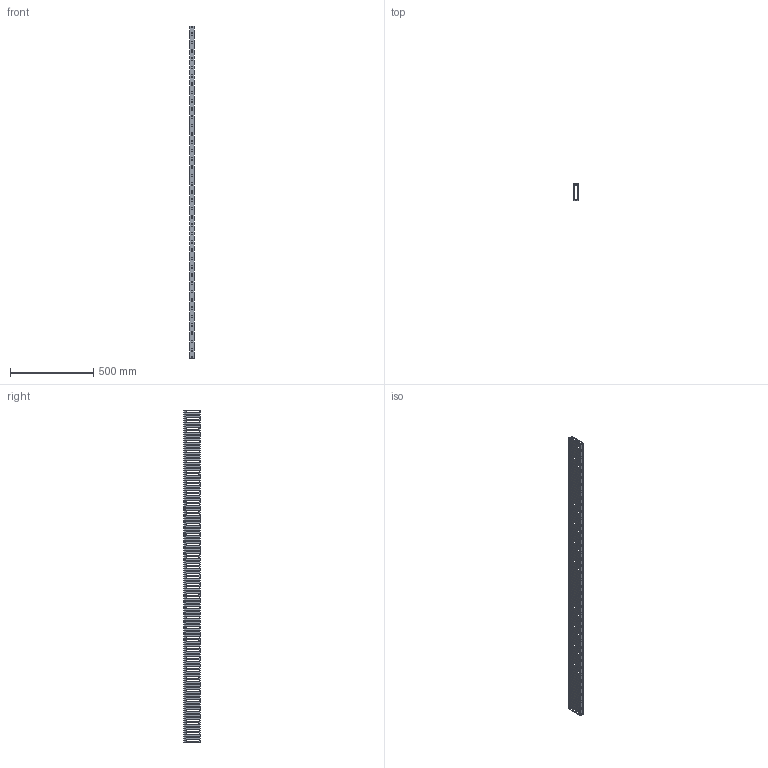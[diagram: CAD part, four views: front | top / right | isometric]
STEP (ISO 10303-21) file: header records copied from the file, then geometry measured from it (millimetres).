
FILE_DESCRIPTION (( 'STEP AP214' ), '1' );
FILE_NAME ('KD-210-20-H.STEP', '2020-02-19T01:33:30', ( '' ), ( '' ), 'SwSTEP 2.0', 'SolidWorks 2018', '' );
FILE_SCHEMA (( 'AUTOMOTIVE_DESIGN' ));
Length unit declared in the file: millimetre
Products named in the file (3): KD-24-20-cover; KD-210-20-H-body; KD-210-20-H
Assembly tree (2 placements, depth 2):
  KD-210-20-H
    KD-210-20-H-body
    KD-24-20-cover
Bounding box: 25 x 100.17 x 2000 mm (x, y, z)
Volume: 696210.3 mm3; surface area: 906587.3 mm2
Topology: 2 solids, 2 shells, 1863 faces, 5577 edges, 3718 vertices
Faces by surface type: cylinder 955, plane 908
Entity records: 64367 total; most frequent: DIRECTION 11223, CARTESIAN_POINT 11163, ORIENTED_EDGE 11154, EDGE_CURVE 5577, AXIS2_PLACEMENT_3D 3778, VERTEX_POINT 3718, LINE 3667, VECTOR 3667
